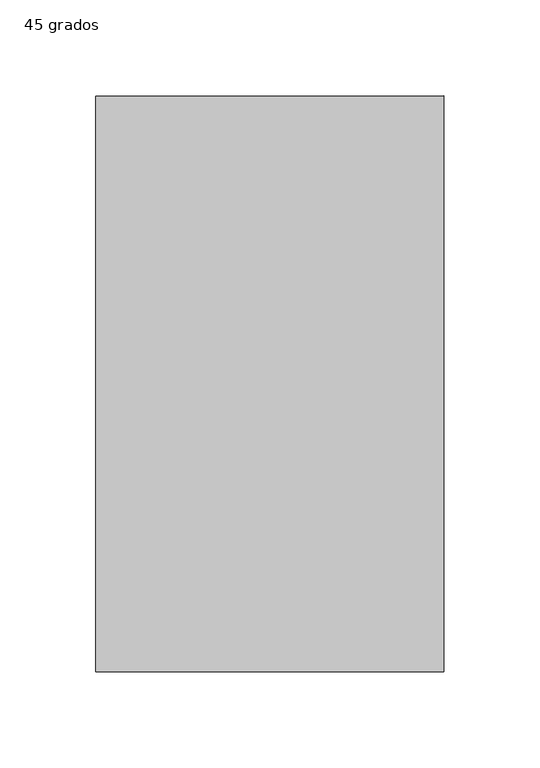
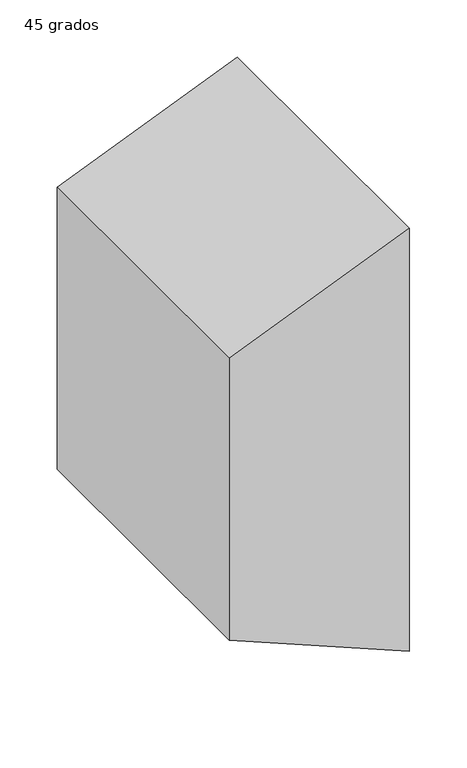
"""IFC4 building model written with IfcOpenShell, lengths in millimetres: duct fitting geometry, M_Transición rectangular - Ángulo : 45 grados."""

from ifc_helpers import new_model, si_unit, frame, origin, place, context, project, spatial, polyline, outline, extrude, source, transform, mapped, element, save


def duct_fitting_45_grados_7da8009e(model_context):
    return source(origin(), model_context, "Body", "SweptSolid", [
        extrude(outline(polyline([(150.0, 0.0), (-150.0, 0.0), (-225.0, 181.0660172), (225.0, 181.0660172), (150.0, 0.0)])), frame((0.0, -150.0, 0.0), z_axis=(0.0, 1.0, 0.0), x_axis=(0.0, 0.0, 1.0)), (0.0, 0.0, 1.0), 300.0),
    ])


if __name__ == "__main__":
    model = new_model("IFC4")
    model_context = context("Model", 3, world=origin())
    ifc_project = project(units=[si_unit("LENGTHUNIT", "METRE", prefix="MILLI")], contexts=[model_context])
    site = spatial("IfcSite", under=ifc_project)
    building = spatial("IfcBuilding", under=site)
    placement = place(None, origin())
    duct_fitting_45_grados_shape = duct_fitting_45_grados_7da8009e(model_context)
    element("IfcDuctFitting", 1, ObjectType="M_Transición rectangular - Ángulo : 45 grados", at=placement, inside=building, context=model_context, shape_type="MappedRepresentation", body=[
        mapped(duct_fitting_45_grados_shape, transform((0.0, 0.0, 0.0), x_axis=(1.0, 0.0, 0.0), y_axis=(0.0, 1.0, 0.0), z_axis=(0.0, 0.0, 1.0))),
    ])
    save(model, "model.ifc")
